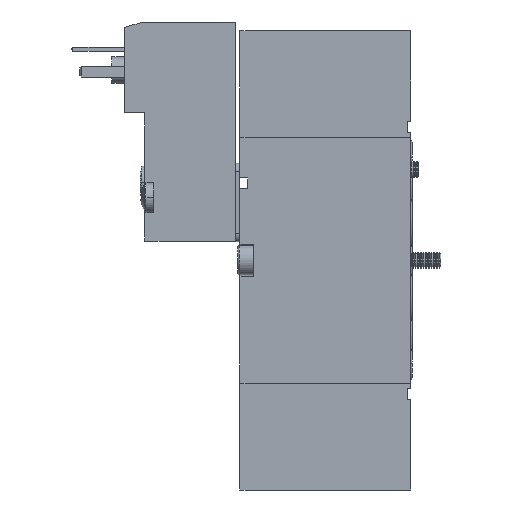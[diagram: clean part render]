
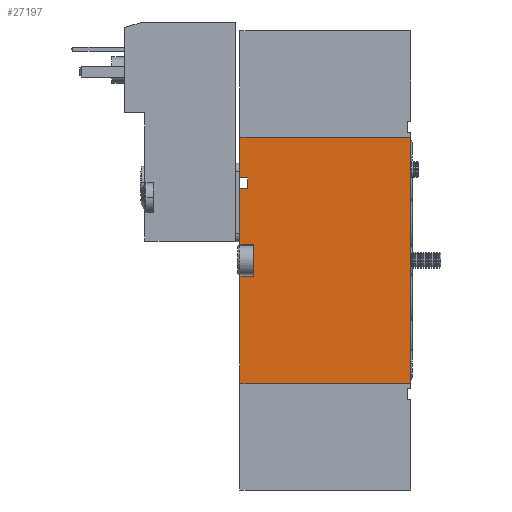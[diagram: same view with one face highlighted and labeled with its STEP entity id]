
A CAD part, left-side view. The second image highlights one B-rep face of the part: STEP entity #27197.
In plain terms, the highlighted planar face has unit normal (-1, 0, 0).
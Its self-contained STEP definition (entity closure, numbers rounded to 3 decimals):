
#225 = DIRECTION ( 'NONE',  ( 0., 0., -1. ) ) ;
#1351 = LINE ( 'NONE', #28495, #24277 ) ;
#2368 = VERTEX_POINT ( 'NONE', #40565 ) ;
#2547 = VERTEX_POINT ( 'NONE', #14134 ) ;
#4501 = ORIENTED_EDGE ( 'NONE', *, *, #14025, .T. ) ;
#4770 = DIRECTION ( 'NONE',  ( 0., 0., -1. ) ) ;
#5960 = EDGE_CURVE ( 'NONE', #52697, #20672, #52406, .T. ) ;
#7803 = EDGE_CURVE ( 'NONE', #27697, #20672, #8268, .T. ) ;
#8268 = LINE ( 'NONE', #64003, #46659 ) ;
#9346 = LINE ( 'NONE', #47018, #36022 ) ;
#10587 = CARTESIAN_POINT ( 'NONE',  ( -9., 16., 46. ) ) ;
#11058 = CARTESIAN_POINT ( 'NONE',  ( -9., 14.5, 36.4 ) ) ;
#11741 = VECTOR ( 'NONE', #225, 1000. ) ;
#12026 = DIRECTION ( 'NONE',  ( 0., 0., -1. ) ) ;
#14025 = EDGE_CURVE ( 'NONE', #21418, #15932, #62095, .T. ) ;
#14134 = CARTESIAN_POINT ( 'NONE',  ( -9., 14.5, 38.4 ) ) ;
#15932 = VERTEX_POINT ( 'NONE', #39770 ) ;
#16170 = DIRECTION ( 'NONE',  ( 0., -1., 0. ) ) ;
#16846 = VECTOR ( 'NONE', #27967, 1000. ) ;
#19442 = ORIENTED_EDGE ( 'NONE', *, *, #5960, .F. ) ;
#19780 = VECTOR ( 'NONE', #30311, 1000. ) ;
#20672 = VERTEX_POINT ( 'NONE', #38878 ) ;
#21418 = VERTEX_POINT ( 'NONE', #55336 ) ;
#21675 = CARTESIAN_POINT ( 'NONE',  ( -9., -16., 46. ) ) ;
#22907 = CARTESIAN_POINT ( 'NONE',  ( -9., 13.4, 20. ) ) ;
#24277 = VECTOR ( 'NONE', #38512, 1000. ) ;
#25243 = CARTESIAN_POINT ( 'NONE',  ( -9., 14.5, 36.4 ) ) ;
#25297 = EDGE_CURVE ( 'NONE', #35577, #52697, #49146, .T. ) ;
#26019 = CARTESIAN_POINT ( 'NONE',  ( -9., 13.4, 20. ) ) ;
#26246 = PLANE ( 'NONE',  #47239 ) ;
#26691 = DIRECTION ( 'NONE',  ( 0., 0., -1. ) ) ;
#27104 = CARTESIAN_POINT ( 'NONE',  ( -9., 13.4, 0. ) ) ;
#27197 = ADVANCED_FACE ( 'NONE', ( #32593 ), #26246, .F. ) ;
#27417 = ORIENTED_EDGE ( 'NONE', *, *, #36079, .T. ) ;
#27697 = VERTEX_POINT ( 'NONE', #35805 ) ;
#27829 = EDGE_CURVE ( 'NONE', #35577, #21418, #55112, .T. ) ;
#27967 = DIRECTION ( 'NONE',  ( 0., 1., 0. ) ) ;
#28495 = CARTESIAN_POINT ( 'NONE',  ( -9., -16., 0. ) ) ;
#28784 = CARTESIAN_POINT ( 'NONE',  ( -9., 13.4, 26. ) ) ;
#30311 = DIRECTION ( 'NONE',  ( 0., 0., 1. ) ) ;
#31309 = ORIENTED_EDGE ( 'NONE', *, *, #49493, .F. ) ;
#31998 = ORIENTED_EDGE ( 'NONE', *, *, #27829, .T. ) ;
#32403 = DIRECTION ( 'NONE',  ( 0., 1., 0. ) ) ;
#32514 = EDGE_CURVE ( 'NONE', #44865, #27697, #55965, .T. ) ;
#32593 = FACE_OUTER_BOUND ( 'NONE', #35702, .T. ) ;
#33482 = ORIENTED_EDGE ( 'NONE', *, *, #7803, .T. ) ;
#33957 = CARTESIAN_POINT ( 'NONE',  ( -9., 13.4, 26. ) ) ;
#35577 = VERTEX_POINT ( 'NONE', #26019 ) ;
#35702 = EDGE_LOOP ( 'NONE', ( #48386, #54647, #33482, #19442, #52238, #31998, #4501, #63892, #56992, #31309, #27417, #45353 ) ) ;
#35805 = CARTESIAN_POINT ( 'NONE',  ( -9., 16., 36.4 ) ) ;
#36022 = VECTOR ( 'NONE', #12026, 1000. ) ;
#36079 = EDGE_CURVE ( 'NONE', #48020, #61969, #53203, .T. ) ;
#36999 = EDGE_CURVE ( 'NONE', #15932, #55605, #1351, .T. ) ;
#37674 = CARTESIAN_POINT ( 'NONE',  ( -9., -16., 0. ) ) ;
#38512 = DIRECTION ( 'NONE',  ( 0., -1., 0. ) ) ;
#38563 = CARTESIAN_POINT ( 'NONE',  ( -9., 14.5, 38.4 ) ) ;
#38878 = CARTESIAN_POINT ( 'NONE',  ( -9., 16., 26. ) ) ;
#39330 = LINE ( 'NONE', #25243, #19780 ) ;
#39770 = CARTESIAN_POINT ( 'NONE',  ( -9., 16., 0. ) ) ;
#40565 = CARTESIAN_POINT ( 'NONE',  ( -9., -16., 46. ) ) ;
#41038 = DIRECTION ( 'NONE',  ( 0., 1., 0. ) ) ;
#42134 = CARTESIAN_POINT ( 'NONE',  ( -9., 16., 46. ) ) ;
#42690 = VECTOR ( 'NONE', #41038, 1000. ) ;
#44865 = VERTEX_POINT ( 'NONE', #63632 ) ;
#45353 = ORIENTED_EDGE ( 'NONE', *, *, #61948, .F. ) ;
#46659 = VECTOR ( 'NONE', #4770, 1000. ) ;
#47018 = CARTESIAN_POINT ( 'NONE',  ( -9., -16., 46. ) ) ;
#47238 = VECTOR ( 'NONE', #48366, 1000. ) ;
#47239 = AXIS2_PLACEMENT_3D ( 'NONE', #21675, #56558, #26691 ) ;
#47328 = VECTOR ( 'NONE', #16170, 1000. ) ;
#48020 = VERTEX_POINT ( 'NONE', #42134 ) ;
#48366 = DIRECTION ( 'NONE',  ( 0., 1., 0. ) ) ;
#48386 = ORIENTED_EDGE ( 'NONE', *, *, #51052, .F. ) ;
#49146 = LINE ( 'NONE', #27104, #50697 ) ;
#49493 = EDGE_CURVE ( 'NONE', #48020, #2368, #60530, .T. ) ;
#50697 = VECTOR ( 'NONE', #56976, 1000. ) ;
#50830 = VECTOR ( 'NONE', #32403, 1000. ) ;
#51052 = EDGE_CURVE ( 'NONE', #44865, #2547, #39330, .T. ) ;
#51089 = CARTESIAN_POINT ( 'NONE',  ( -9., -16., 46. ) ) ;
#52238 = ORIENTED_EDGE ( 'NONE', *, *, #25297, .F. ) ;
#52406 = LINE ( 'NONE', #33957, #50830 ) ;
#52697 = VERTEX_POINT ( 'NONE', #28784 ) ;
#53054 = EDGE_CURVE ( 'NONE', #2368, #55605, #9346, .T. ) ;
#53203 = LINE ( 'NONE', #10587, #11741 ) ;
#54647 = ORIENTED_EDGE ( 'NONE', *, *, #32514, .T. ) ;
#55112 = LINE ( 'NONE', #22907, #16846 ) ;
#55336 = CARTESIAN_POINT ( 'NONE',  ( -9., 16., 20. ) ) ;
#55605 = VERTEX_POINT ( 'NONE', #37674 ) ;
#55965 = LINE ( 'NONE', #11058, #42690 ) ;
#56558 = DIRECTION ( 'NONE',  ( 1., 0., 0. ) ) ;
#56976 = DIRECTION ( 'NONE',  ( 0., 0., 1. ) ) ;
#56992 = ORIENTED_EDGE ( 'NONE', *, *, #53054, .F. ) ;
#60136 = CARTESIAN_POINT ( 'NONE',  ( -9., 16., 46. ) ) ;
#60349 = DIRECTION ( 'NONE',  ( 0., 0., -1. ) ) ;
#60530 = LINE ( 'NONE', #51089, #47328 ) ;
#60541 = VECTOR ( 'NONE', #60349, 1000. ) ;
#61948 = EDGE_CURVE ( 'NONE', #2547, #61969, #61999, .T. ) ;
#61969 = VERTEX_POINT ( 'NONE', #63512 ) ;
#61999 = LINE ( 'NONE', #38563, #47238 ) ;
#62095 = LINE ( 'NONE', #60136, #60541 ) ;
#63512 = CARTESIAN_POINT ( 'NONE',  ( -9., 16., 38.4 ) ) ;
#63632 = CARTESIAN_POINT ( 'NONE',  ( -9., 14.5, 36.4 ) ) ;
#63892 = ORIENTED_EDGE ( 'NONE', *, *, #36999, .T. ) ;
#64003 = CARTESIAN_POINT ( 'NONE',  ( -9., 16., 46. ) ) ;
